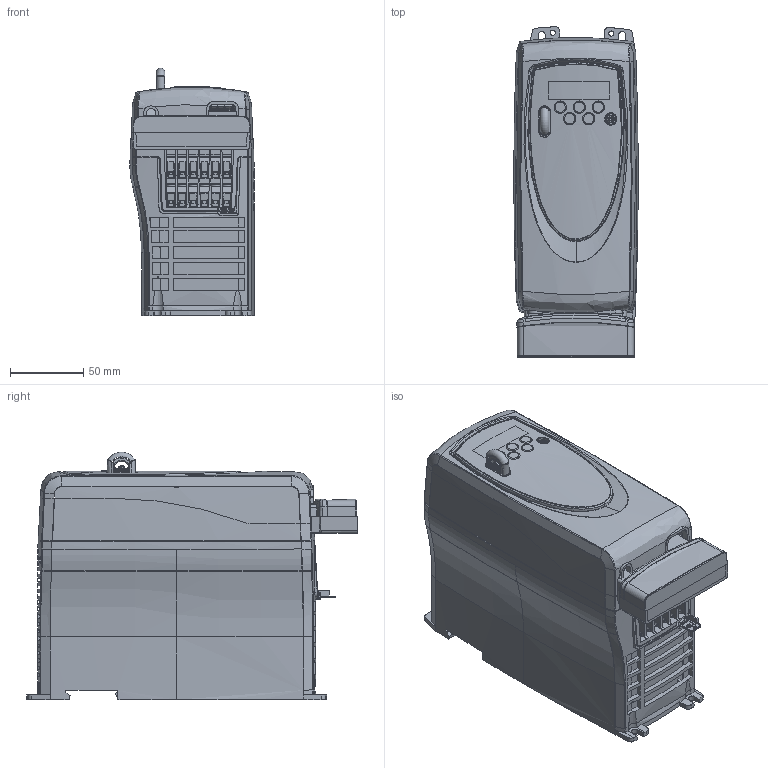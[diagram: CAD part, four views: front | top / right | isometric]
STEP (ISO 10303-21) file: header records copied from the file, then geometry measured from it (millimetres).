
FILE_DESCRIPTION((''),'2;1');
FILE_NAME('PK-SEQ-SK-B-ALL-STIC-N-OPTION','2006-12-19T',('summne01'),(''),'PRO/ENGINEER BY PARAMETRIC TECHNOLOGY CORPORATION, 2006320','PRO/ENGINEER BY PARAMETRIC TECHNOLOGY CORPORATION, 2006320','');
FILE_SCHEMA(('CONFIG_CONTROL_DESIGN'));
Length unit declared in the file: millimetre
Products named in the file (1): PK-SEQ-SK-B-ALL-STIC-N-OPTION
Bounding box: 85 x 226.13 x 169.06 mm (x, y, z)
Surface area: 174098 mm2 (no closed solid volume)
Topology: 0 solids, 142 shells, 1057 faces, 4346 edges, 3325 vertices
Faces by surface type: plane 553, cylinder 293, bspline 117, cone 64, torus 20, sphere 6, extrusion 4
Entity records: 55768 total; most frequent: CARTESIAN_POINT 22819, ORIENTED_EDGE 6305, DIRECTION 5797, EDGE_CURVE 4344, VERTEX_POINT 3325, VECTOR 2619, LINE 2615, AXIS2_PLACEMENT_3D 1589
